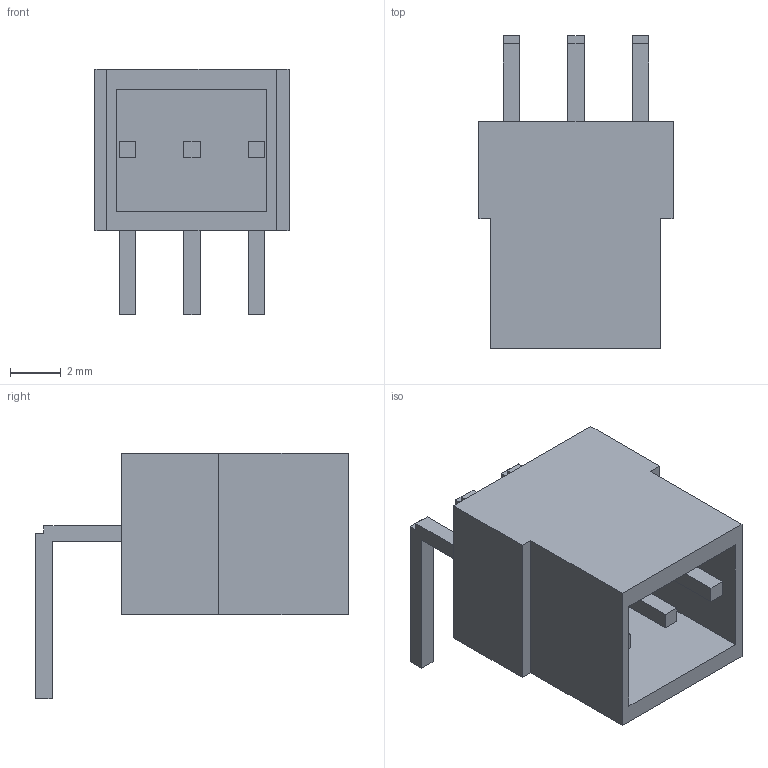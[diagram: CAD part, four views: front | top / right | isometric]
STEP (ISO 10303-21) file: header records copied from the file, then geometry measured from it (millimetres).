
FILE_DESCRIPTION(('Open CASCADE Model'),'2;1');
FILE_NAME('Open CASCADE Shape Model','2026-11-24T21:20:19',('Author'),( 'Open CASCADE'),'Open CASCADE STEP processor 7.7','Open CASCADE 7.7' ,'Unknown');
FILE_SCHEMA(('AUTOMOTIVE_DESIGN { 1 0 10303 214 1 1 1 1 }'));
Length unit declared in the file: millimetre
Products named in the file (1): Open CASCADE STEP translator 7.7 1
Bounding box: 7.62 x 12.26 x 9.65 mm (x, y, z)
Volume: 271.7 mm3; surface area: 550.6 mm2
Topology: 1 solids, 1 shells, 57 faces, 144 edges, 96 vertices
Faces by surface type: plane 57
Entity records: 3488 total; most frequent: CARTESIAN_POINT 658, DIRECTION 476, LINE 360, VECTOR 360, ORIENTED_EDGE 288, PCURVE 288, DEFINITIONAL_REPRESENTATION 288, EDGE_CURVE 144
